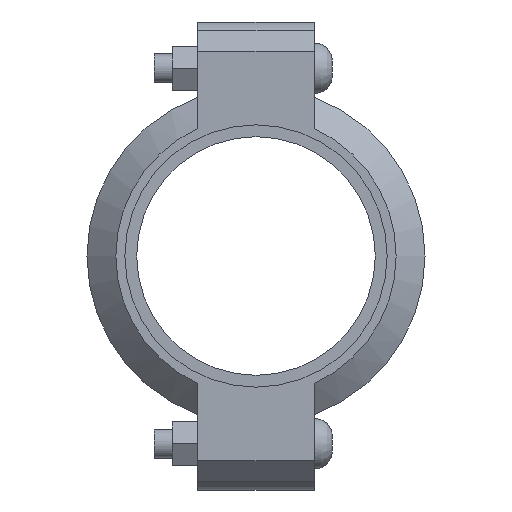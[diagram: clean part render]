
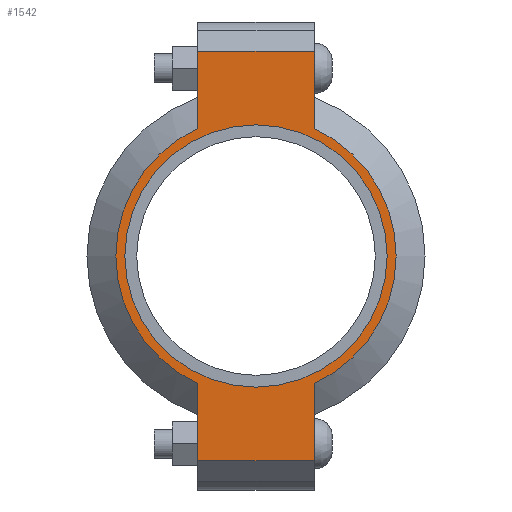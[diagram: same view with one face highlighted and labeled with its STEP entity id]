
A CAD part, left-side view. The second image highlights one B-rep face of the part: STEP entity #1542.
In plain terms, the highlighted planar face has unit normal (-1, 0, 0) as drawn and (0, 0, 1) by its records, which use the part's own axes.
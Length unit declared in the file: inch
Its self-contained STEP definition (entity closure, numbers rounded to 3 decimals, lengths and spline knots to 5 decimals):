
#166=LINE('',#2700,#259);
#174=LINE('',#2736,#267);
#181=LINE('',#2757,#274);
#190=LINE('',#2789,#283);
#191=LINE('',#2793,#284);
#192=LINE('',#2795,#285);
#259=VECTOR('',#2204,0.3937);
#267=VECTOR('',#2220,0.3937);
#274=VECTOR('',#2239,0.3937);
#283=VECTOR('',#2264,0.3937);
#284=VECTOR('',#2269,0.3937);
#285=VECTOR('',#2270,0.3937);
#341=FACE_BOUND('',#519,.T.);
#413=FACE_OUTER_BOUND('',#518,.T.);
#518=EDGE_LOOP('',(#1283,#1284,#1285,#1286,#1287,#1288,#1289,#1290));
#519=EDGE_LOOP('',(#1291));
#591=CIRCLE('',#1770,2.25);
#617=CIRCLE('',#1829,2.405);
#618=CIRCLE('',#1830,2.405);
#683=VERTEX_POINT('',#2516);
#726=VERTEX_POINT('',#2697);
#727=VERTEX_POINT('',#2699);
#738=VERTEX_POINT('',#2731);
#739=VERTEX_POINT('',#2735);
#746=VERTEX_POINT('',#2754);
#747=VERTEX_POINT('',#2756);
#757=VERTEX_POINT('',#2792);
#758=VERTEX_POINT('',#2794);
#839=EDGE_CURVE('',#683,#683,#591,.T.);
#900=EDGE_CURVE('',#727,#726,#166,.T.);
#914=EDGE_CURVE('',#739,#738,#174,.T.);
#924=EDGE_CURVE('',#747,#746,#181,.T.);
#939=EDGE_CURVE('',#739,#726,#190,.T.);
#940=EDGE_CURVE('',#738,#747,#617,.T.);
#941=EDGE_CURVE('',#757,#746,#191,.T.);
#942=EDGE_CURVE('',#757,#758,#192,.T.);
#943=EDGE_CURVE('',#758,#727,#618,.T.);
#1283=ORIENTED_EDGE('',*,*,#939,.F.);
#1284=ORIENTED_EDGE('',*,*,#914,.T.);
#1285=ORIENTED_EDGE('',*,*,#940,.T.);
#1286=ORIENTED_EDGE('',*,*,#924,.T.);
#1287=ORIENTED_EDGE('',*,*,#941,.F.);
#1288=ORIENTED_EDGE('',*,*,#942,.T.);
#1289=ORIENTED_EDGE('',*,*,#943,.T.);
#1290=ORIENTED_EDGE('',*,*,#900,.T.);
#1291=ORIENTED_EDGE('',*,*,#839,.T.);
#1384=PLANE('',#1828);
#1542=ADVANCED_FACE('',(#413,#341),#1384,.T.);
#1770=AXIS2_PLACEMENT_3D('',#2518,#2080,#2081);
#1828=AXIS2_PLACEMENT_3D('',#2790,#2265,#2266);
#1829=AXIS2_PLACEMENT_3D('',#2791,#2267,#2268);
#1830=AXIS2_PLACEMENT_3D('',#2796,#2271,#2272);
#2080=DIRECTION('center_axis',(0.,0.,-1.));
#2081=DIRECTION('ref_axis',(1.,0.,0.));
#2204=DIRECTION('',(1.,0.,0.));
#2220=DIRECTION('',(-1.,0.,0.));
#2239=DIRECTION('',(-1.,0.,0.));
#2264=DIRECTION('',(0.,-1.,0.));
#2265=DIRECTION('center_axis',(0.,0.,1.));
#2266=DIRECTION('ref_axis',(-1.,0.,0.));
#2267=DIRECTION('center_axis',(0.,0.,1.));
#2268=DIRECTION('ref_axis',(1.,0.,0.));
#2269=DIRECTION('',(0.,1.,0.));
#2270=DIRECTION('',(1.,0.,0.));
#2271=DIRECTION('center_axis',(0.,0.,1.));
#2272=DIRECTION('ref_axis',(1.,0.,0.));
#2516=CARTESIAN_POINT('',(-2.25,0.,1.065));
#2518=CARTESIAN_POINT('Origin',(0.,0.,1.065));
#2697=CARTESIAN_POINT('',(3.515,-1.,1.065));
#2699=CARTESIAN_POINT('',(2.18724,-1.,1.065));
#2700=CARTESIAN_POINT('',(4.015,-1.,1.065));
#2731=CARTESIAN_POINT('',(2.18724,1.,1.065));
#2735=CARTESIAN_POINT('',(3.515,1.,1.065));
#2736=CARTESIAN_POINT('',(-4.015,1.,1.065));
#2754=CARTESIAN_POINT('',(-3.515,1.,1.065));
#2756=CARTESIAN_POINT('',(-2.18724,1.,1.065));
#2757=CARTESIAN_POINT('',(-4.015,1.,1.065));
#2789=CARTESIAN_POINT('',(3.515,-0.5,1.065));
#2790=CARTESIAN_POINT('Origin',(0.,0.,
1.065));
#2791=CARTESIAN_POINT('Origin',(0.,0.,1.065));
#2792=CARTESIAN_POINT('',(-3.515,-1.,1.065));
#2793=CARTESIAN_POINT('',(-3.515,0.5,1.065));
#2794=CARTESIAN_POINT('',(-2.18724,-1.,1.065));
#2795=CARTESIAN_POINT('',(4.015,-1.,1.065));
#2796=CARTESIAN_POINT('Origin',(0.,0.,1.065));
